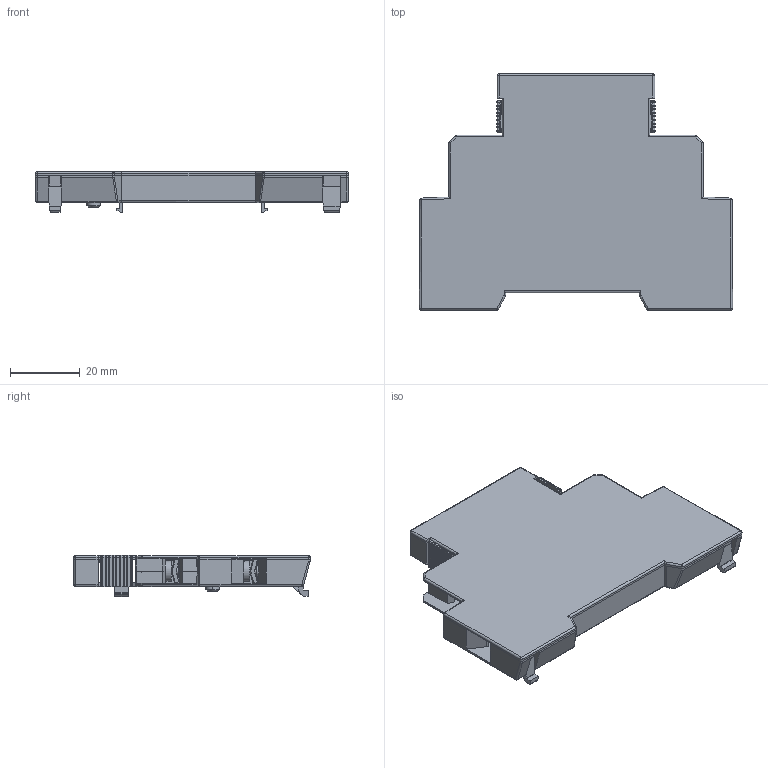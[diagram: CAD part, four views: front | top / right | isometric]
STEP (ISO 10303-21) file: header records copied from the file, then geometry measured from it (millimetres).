
FILE_DESCRIPTION((''),'2;1');
FILE_NAME('12M90033G01-330-SAXXS25','2023-07-17T11:07:46',('design1'),(''),'CREO PARAMETRIC BY PTC INC, 2022284','CREO PARAMETRIC BY PTC INC, 2022284','');
FILE_SCHEMA(('CONFIG_CONTROL_DESIGN'));
Length unit declared in the file: millimetre
Products named in the file (1): 12M90033G01-330-SAXXS25
Bounding box: 89.5 x 67.5 x 11.79 mm (x, y, z)
Surface area: 32877.9 mm2 (no closed solid volume)
Topology: 0 solids, 10 shells, 1908 faces, 5053 edges, 3269 vertices
Faces by surface type: plane 1217, cylinder 478, torus 114, cone 48, extrusion 24, sphere 21, bspline 6
Entity records: 59892 total; most frequent: CARTESIAN_POINT 11899, ORIENTED_EDGE 10078, DIRECTION 9793, EDGE_CURVE 5039, VECTOR 3627, LINE 3603, VERTEX_POINT 3269, AXIS2_PLACEMENT_3D 3083
